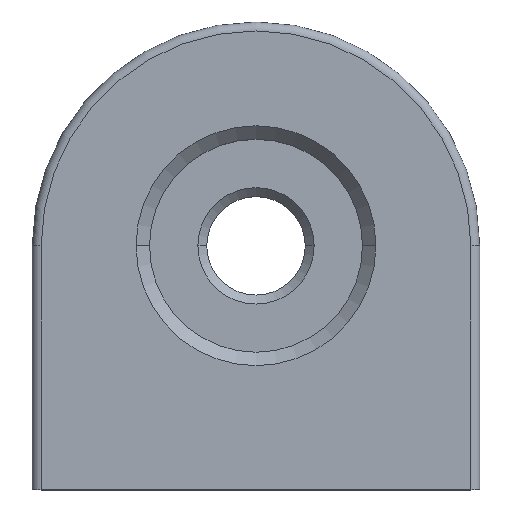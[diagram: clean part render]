
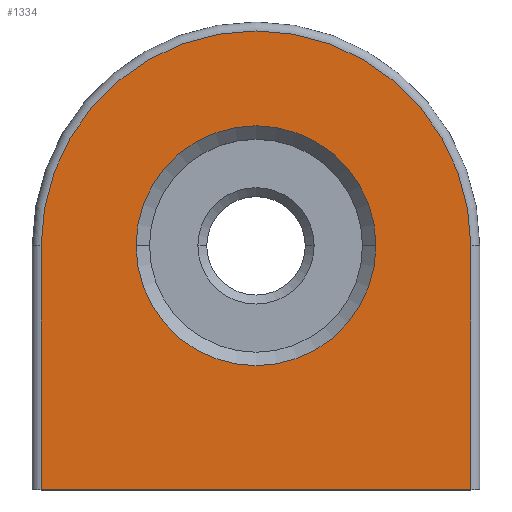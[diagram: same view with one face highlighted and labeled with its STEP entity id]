
A CAD part, top view. The second image highlights one B-rep face of the part: STEP entity #1334.
In plain terms, the highlighted planar face has unit normal (0, 0, 1).
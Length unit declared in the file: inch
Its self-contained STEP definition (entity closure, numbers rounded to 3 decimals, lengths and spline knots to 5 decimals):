
#1=CARTESIAN_POINT('',(0.,0.5225,-1.7875));
#2=DIRECTION('',(0.,0.,-1.));
#3=DIRECTION('',(1.,0.,0.));
#4=AXIS2_PLACEMENT_3D('',#1,#2,#3);
#6=CARTESIAN_POINT('',(0.,0.5225,-1.7875));
#7=DIRECTION('',(0.,0.,-1.));
#8=DIRECTION('',(-1.,0.,0.));
#9=AXIS2_PLACEMENT_3D('',#6,#7,#8);
#11=DIRECTION('',(0.,-1.,0.));
#12=VECTOR('',#11,0.2725);
#13=CARTESIAN_POINT('',(-0.24,0.5225,-1.7875));
#14=LINE('',#13,#12);
#15=CARTESIAN_POINT('',(0.,0.5225,-1.7875));
#16=DIRECTION('',(0.,0.,1.));
#17=DIRECTION('',(1.,0.,0.));
#18=AXIS2_PLACEMENT_3D('',#15,#16,#17);
#20=DIRECTION('',(0.,1.,0.));
#21=VECTOR('',#20,0.2725);
#22=CARTESIAN_POINT('',(0.24,0.25,-1.7875));
#23=LINE('',#22,#21);
#24=DIRECTION('',(1.,0.,0.));
#25=VECTOR('',#24,0.48);
#26=CARTESIAN_POINT('',(-0.24,0.25,-1.7875));
#27=LINE('',#26,#25);
#1247=CARTESIAN_POINT('',(0.134,0.5225,-1.7875));
#1248=CARTESIAN_POINT('',(-0.134,0.5225,-1.7875));
#1249=VERTEX_POINT('',#1247);
#1250=VERTEX_POINT('',#1248);
#1265=CARTESIAN_POINT('',(-0.24,0.25,-1.7875));
#1267=VERTEX_POINT('',#1265);
#1271=CARTESIAN_POINT('',(-0.24,0.5225,-1.7875));
#1272=VERTEX_POINT('',#1271);
#1273=CARTESIAN_POINT('',(0.24,0.5225,-1.7875));
#1274=VERTEX_POINT('',#1273);
#1278=CARTESIAN_POINT('',(0.24,0.25,-1.7875));
#1280=VERTEX_POINT('',#1278);
#1313=CARTESIAN_POINT('',(0.,0.,-1.7875));
#1314=DIRECTION('',(0.,0.,1.));
#1315=DIRECTION('',(1.,0.,0.));
#1316=AXIS2_PLACEMENT_3D('',#1313,#1314,#1315);
#1317=PLANE('',#1316);
#1319=ORIENTED_EDGE('',*,*,#1318,.F.);
#1321=ORIENTED_EDGE('',*,*,#1320,.F.);
#1323=ORIENTED_EDGE('',*,*,#1322,.F.);
#1325=ORIENTED_EDGE('',*,*,#1324,.F.);
#1326=EDGE_LOOP('',(#1319,#1321,#1323,#1325));
#1327=FACE_OUTER_BOUND('',#1326,.F.);
#1329=ORIENTED_EDGE('',*,*,#1328,.F.);
#1331=ORIENTED_EDGE('',*,*,#1330,.F.);
#1332=EDGE_LOOP('',(#1329,#1331));
#1333=FACE_BOUND('',#1332,.F.);
#1334=ADVANCED_FACE('',(#1327,#1333),#1317,.T.);
#5=CIRCLE('',#4,0.134);
#10=CIRCLE('',#9,0.134);
#19=CIRCLE('',#18,0.24);
#1318=EDGE_CURVE('',#1272,#1267,#14,.T.);
#1320=EDGE_CURVE('',#1274,#1272,#19,.T.);
#1322=EDGE_CURVE('',#1280,#1274,#23,.T.);
#1324=EDGE_CURVE('',#1267,#1280,#27,.T.);
#1328=EDGE_CURVE('',#1249,#1250,#5,.T.);
#1330=EDGE_CURVE('',#1250,#1249,#10,.T.);
